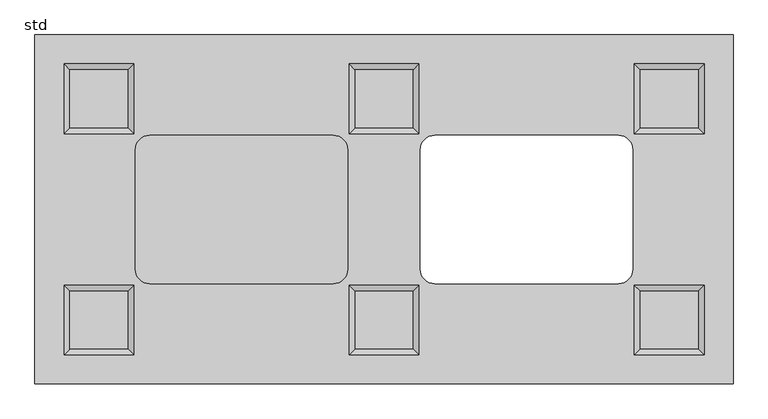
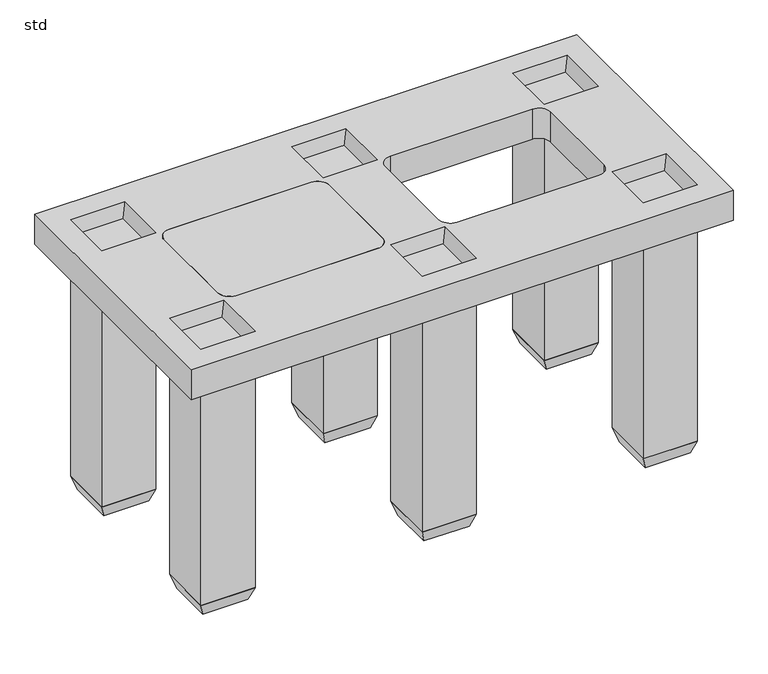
"""IFC4 building model written with IfcOpenShell, lengths in millimetres: unitary equipment geometry, Z_ME_UN_Q-Bic_Plus_Infiltration_Unit_Wavin_(nested) : std."""

from ifc_helpers import new_model, si_unit, point, frame, frame_2d, origin, origin_with_axes, place, context, project, spatial, polyline, circle_curve, trimmed, segment, composite_curve, outline, extrude, faceted_brep, source, transform, mapped, element, save
from ifc_brep_helpers import plane_surface, revolved_surface, advanced_brep


def std_7f29cd48(model_context):
    return source(origin(), model_context, "Body", "SolidModel", [
        extrude(outline(composite_curve([segment(polyline([(197.5, 427.5), (512.5, 427.5)]), True, "CONTINUOUS"), segment(trimmed(circle_curve(frame_2d((512.5, 402.5)), 25.0), [point((512.5, 427.5))], [point((537.5, 402.5))], False, "CARTESIAN"), True, "CONTINUOUS"), segment(polyline([(537.5, 402.5), (537.5, 197.5)]), True, "CONTINUOUS"), segment(trimmed(circle_curve(frame_2d((512.5, 197.5)), 25.0), [point((537.5, 197.5))], [point((512.5, 172.5))], False, "CARTESIAN"), True, "CONTINUOUS"), segment(polyline([(512.5, 172.5), (197.5, 172.5)]), True, "CONTINUOUS"), segment(trimmed(circle_curve(frame_2d((197.5, 197.5)), 25.0), [point((197.5, 172.5))], [point((172.5, 197.5))], False, "CARTESIAN"), True, "CONTINUOUS"), segment(polyline([(172.5, 197.5), (172.5, 402.5)]), True, "CONTINUOUS"), segment(trimmed(circle_curve(frame_2d((197.5, 402.5)), 25.0), [point((172.5, 402.5))], [point((197.5, 427.5))], False, "CARTESIAN"), True, "CONTINUOUS")], self_intersect=False)), frame((0.0, 0.0, 530.0), z_axis=(0.0, 0.0, 1.0), x_axis=(1.0, 0.0, 0.0)), (0.0, 0.0, 1.0), 70.0),
        advanced_brep(
        [(1200.0, 600.0, 600.0), (0.0, 600.0, 600.0), (0.0, 0.0, 600.0), (1200.0, 0.0, 600.0), (50.0, 550.0, 600.0), (170.0, 550.0, 600.0), (170.0, 430.0, 600.0), (50.0, 430.0, 600.0), (50.0, 170.0, 600.0), (170.0, 170.0, 600.0), (170.0, 50.0, 600.0), (50.0, 50.0, 600.0), (540.0, 170.0, 600.0), (660.0, 170.0, 600.0), (660.0, 50.0, 600.0), (540.0, 50.0, 600.0), (540.0, 550.0, 600.0), (660.0, 550.0, 600.0), (660.0, 430.0, 600.0), (540.0, 430.0, 600.0), (1030.0, 550.0, 600.0), (1150.0, 550.0, 600.0), (1150.0, 430.0, 600.0), (1030.0, 430.0, 600.0), (1030.0, 170.0, 600.0), (1150.0, 170.0, 600.0), (1150.0, 50.0, 600.0), (1030.0, 50.0, 600.0), (172.5, 402.5, 600.0), (197.5, 427.5, 600.0), (512.5, 427.5, 600.0), (537.5, 402.5, 600.0), (537.5, 197.5, 600.0), (512.5, 172.5, 600.0), (197.5, 172.5, 600.0), (172.5, 197.5, 600.0), (662.5, 402.5, 600.0), (687.5, 427.5, 600.0), (1002.5, 427.5, 600.0), (1027.5, 402.5, 600.0), (1027.5, 197.5, 600.0), (1002.5, 172.5, 600.0), (687.5, 172.5, 600.0), (662.5, 197.5, 600.0), (1200.0, 600.0, 530.0), (1200.0, 0.0, 530.0), (0.0, 0.0, 530.0), (0.0, 600.0, 530.0), (172.5, 402.5, 530.0), (172.5, 197.5, 530.0), (197.5, 172.5, 530.0), (512.5, 172.5, 530.0), (537.5, 197.5, 530.0), (537.5, 402.5, 530.0), (512.5, 427.5, 530.0), (197.5, 427.5, 530.0), (662.5, 402.5, 530.0), (662.5, 197.5, 530.0), (687.5, 172.5, 530.0), (1002.5, 172.5, 530.0), (1027.5, 197.5, 530.0), (1027.5, 402.5, 530.0), (1002.5, 427.5, 530.0), (687.5, 427.5, 530.0), (160.0, 540.0, 570.0), (60.0, 540.0, 570.0), (60.0, 440.0, 570.0), (160.0, 440.0, 570.0), (160.0, 160.0, 570.0), (60.0, 160.0, 570.0), (60.0, 60.0, 570.0), (160.0, 60.0, 570.0), (650.0, 540.0, 570.0), (550.0, 540.0, 570.0), (550.0, 440.0, 570.0), (650.0, 440.0, 570.0), (1140.0, 540.0, 570.0), (1040.0, 540.0, 570.0), (1040.0, 440.0, 570.0), (1140.0, 440.0, 570.0), (650.0, 160.0, 570.0), (550.0, 160.0, 570.0), (550.0, 60.0, 570.0), (650.0, 60.0, 570.0), (1140.0, 160.0, 570.0), (1040.0, 160.0, 570.0), (1040.0, 60.0, 570.0), (1140.0, 60.0, 570.0)],
        [
            (0, 1),
            (1, 2),
            (2, 3),
            (3, 0),
            (4, 5),
            (5, 6),
            (6, 7),
            (7, 4),
            (8, 9),
            (9, 10),
            (10, 11),
            (11, 8),
            (12, 13),
            (13, 14),
            (14, 15),
            (15, 12),
            (16, 17),
            (17, 18),
            (18, 19),
            (19, 16),
            (20, 21),
            (21, 22),
            (22, 23),
            (23, 20),
            (24, 25),
            (25, 26),
            (26, 27),
            (27, 24),
            (28, 29, circle_curve(frame((197.5, 402.5, 600.0), z_axis=(0.0, 0.0, -1.0), x_axis=(1.0, 0.0, 0.0)), 25.0)),
            (29, 30),
            (30, 31, circle_curve(frame((512.5, 402.5, 600.0), z_axis=(0.0, 0.0, -1.0), x_axis=(1.0, 0.0, 0.0)), 25.0)),
            (31, 32),
            (32, 33, circle_curve(frame((512.5, 197.5, 600.0), z_axis=(0.0, 0.0, -1.0), x_axis=(1.0, 0.0, 0.0)), 25.0)),
            (33, 34),
            (34, 35, circle_curve(frame((197.5, 197.5, 600.0), z_axis=(0.0, 0.0, -1.0), x_axis=(1.0, 0.0, 0.0)), 25.0)),
            (35, 28),
            (36, 37, circle_curve(frame((687.5, 402.5, 600.0), z_axis=(0.0, 0.0, -1.0), x_axis=(1.0, 0.0, 0.0)), 25.0)),
            (37, 38),
            (38, 39, circle_curve(frame((1002.5, 402.5, 600.0), z_axis=(0.0, 0.0, -1.0), x_axis=(1.0, 0.0, 0.0)), 25.0)),
            (39, 40),
            (40, 41, circle_curve(frame((1002.5, 197.5, 600.0), z_axis=(0.0, 0.0, -1.0), x_axis=(1.0, 0.0, 0.0)), 25.0)),
            (41, 42),
            (42, 43, circle_curve(frame((687.5, 197.5, 600.0), z_axis=(0.0, 0.0, -1.0), x_axis=(1.0, 0.0, 0.0)), 25.0)),
            (43, 36),
            (44, 45),
            (45, 46),
            (46, 47),
            (47, 44),
            (48, 49),
            (49, 50, circle_curve(frame((197.5, 197.5, 530.0), z_axis=(0.0, 0.0, 1.0), x_axis=(1.0, 0.0, 0.0)), 25.0)),
            (50, 51),
            (51, 52, circle_curve(frame((512.5, 197.5, 530.0), z_axis=(0.0, 0.0, 1.0), x_axis=(1.0, 0.0, 0.0)), 25.0)),
            (52, 53),
            (53, 54, circle_curve(frame((512.5, 402.5, 530.0), z_axis=(0.0, 0.0, 1.0), x_axis=(1.0, 0.0, 0.0)), 25.0)),
            (54, 55),
            (55, 48, circle_curve(frame((197.5, 402.5, 530.0), z_axis=(0.0, 0.0, 1.0), x_axis=(1.0, 0.0, 0.0)), 25.0)),
            (56, 57),
            (57, 58, circle_curve(frame((687.5, 197.5, 530.0), z_axis=(0.0, 0.0, 1.0), x_axis=(1.0, 0.0, 0.0)), 25.0)),
            (58, 59),
            (59, 60, circle_curve(frame((1002.5, 197.5, 530.0), z_axis=(0.0, 0.0, 1.0), x_axis=(1.0, 0.0, 0.0)), 25.0)),
            (60, 61),
            (61, 62, circle_curve(frame((1002.5, 402.5, 530.0), z_axis=(0.0, 0.0, 1.0), x_axis=(1.0, 0.0, 0.0)), 25.0)),
            (62, 63),
            (63, 56, circle_curve(frame((687.5, 402.5, 530.0), z_axis=(0.0, 0.0, 1.0), x_axis=(1.0, 0.0, 0.0)), 25.0)),
            (0, 44),
            (47, 1),
            (46, 2),
            (45, 3),
            (64, 65),
            (65, 66),
            (66, 67),
            (67, 64),
            (64, 5),
            (4, 65),
            (7, 66),
            (6, 67),
            (68, 69),
            (69, 70),
            (70, 71),
            (71, 68),
            (68, 9),
            (8, 69),
            (11, 70),
            (10, 71),
            (72, 73),
            (73, 74),
            (74, 75),
            (75, 72),
            (72, 17),
            (16, 73),
            (19, 74),
            (18, 75),
            (76, 77),
            (77, 78),
            (78, 79),
            (79, 76),
            (76, 21),
            (20, 77),
            (23, 78),
            (22, 79),
            (80, 81),
            (81, 82),
            (82, 83),
            (83, 80),
            (80, 13),
            (12, 81),
            (15, 82),
            (14, 83),
            (84, 85),
            (85, 86),
            (86, 87),
            (87, 84),
            (84, 25),
            (24, 85),
            (27, 86),
            (26, 87),
            (28, 48),
            (55, 29),
            (54, 30),
            (53, 31),
            (52, 32),
            (51, 33),
            (50, 34),
            (49, 35),
            (36, 56),
            (63, 37),
            (62, 38),
            (61, 39),
            (60, 40),
            (59, 41),
            (58, 42),
            (57, 43),
        ],
        [
            plane_surface(frame((0.0, 600.0, 600.0), z_axis=(0.0, 0.0, 1.0), x_axis=(-1.0, 0.0, 0.0))),
            plane_surface(frame((0.0, 600.0, 530.0), z_axis=(0.0, 0.0, -1.0), x_axis=(1.0, 0.0, 0.0))),
            plane_surface(frame((1200.0, 600.0, 600.0), z_axis=(0.0, 1.0, 0.0), x_axis=(0.0, 0.0, -1.0))),
            plane_surface(frame((0.0, 600.0, 600.0), z_axis=(-1.0, 0.0, 0.0), x_axis=(0.0, 0.0, -1.0))),
            plane_surface(frame((0.0, 0.0, 600.0), z_axis=(0.0, -1.0, 0.0), x_axis=(0.0, 0.0, -1.0))),
            plane_surface(frame((1200.0, 0.0, 600.0), z_axis=(1.0, 0.0, 0.0), x_axis=(0.0, 0.0, -1.0))),
            plane_surface(frame((110.0, 490.0, 570.0), z_axis=(0.0, 0.0, 1.0), x_axis=(-1.0, 0.0, 0.0))),
            plane_surface(frame((110.0, 550.0, 600.0), z_axis=(0.0, -0.9486832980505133, 0.3162277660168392), x_axis=(1.0, 0.0, 0.0))),
            plane_surface(frame((50.0, 490.0, 600.0), z_axis=(0.9486832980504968, 0.0, 0.3162277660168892), x_axis=(0.0, 1.0, 0.0))),
            plane_surface(frame((110.0, 430.0, 600.0), z_axis=(0.0, 0.9486832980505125, 0.31622776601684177), x_axis=(-1.0, 0.0, 0.0))),
            plane_surface(frame((170.0, 490.0, 600.0), z_axis=(-0.948683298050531, 0.0, 0.3162277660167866), x_axis=(0.0, -1.0, 0.0))),
            plane_surface(frame((110.0, 110.0, 570.0), z_axis=(0.0, 0.0, 1.0), x_axis=(-1.0, 0.0, 0.0))),
            plane_surface(frame((110.0, 170.0, 600.0), z_axis=(0.0, -0.9486832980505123, 0.31622776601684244), x_axis=(1.0, 0.0, 0.0))),
            plane_surface(frame((50.0, 110.0, 600.0), z_axis=(0.948683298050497, 0.0, 0.3162277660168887), x_axis=(0.0, 1.0, 0.0))),
            plane_surface(frame((110.0, 50.0, 600.0), z_axis=(0.0, 0.9486832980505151, 0.31622776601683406), x_axis=(-1.0, 0.0, 0.0))),
            plane_surface(frame((170.0, 110.0, 600.0), z_axis=(-0.9486832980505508, 0.0, 0.31622776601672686), x_axis=(0.0, -1.0, 0.0))),
            plane_surface(frame((600.0, 490.0, 570.0), z_axis=(0.0, 0.0, 1.0), x_axis=(-1.0, 0.0, 0.0))),
            plane_surface(frame((600.0, 550.0, 600.0), z_axis=(0.0, -0.9486832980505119, 0.3162277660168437), x_axis=(1.0, 0.0, 0.0))),
            plane_surface(frame((540.0, 490.0, 600.0), z_axis=(0.9486832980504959, 0.0, 0.3162277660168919), x_axis=(0.0, 1.0, 0.0))),
            plane_surface(frame((600.0, 430.0, 600.0), z_axis=(0.0, 0.948683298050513, 0.31622776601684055), x_axis=(-1.0, 0.0, 0.0))),
            plane_surface(frame((660.0, 490.0, 600.0), z_axis=(-0.9486832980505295, 0.0, 0.3162277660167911), x_axis=(0.0, -1.0, 0.0))),
            plane_surface(frame((1090.0, 490.0, 570.0), z_axis=(0.0, 0.0, 1.0), x_axis=(-1.0, 0.0, 0.0))),
            plane_surface(frame((1090.0, 550.0, 600.0), z_axis=(0.0, -0.9486832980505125, 0.3162277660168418), x_axis=(1.0, 0.0, 0.0))),
            plane_surface(frame((1030.0, 490.0, 600.0), z_axis=(0.9486832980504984, 0.0, 0.3162277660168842), x_axis=(0.0, 1.0, 0.0))),
            plane_surface(frame((1090.0, 430.0, 600.0), z_axis=(0.0, 0.9486832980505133, 0.3162277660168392), x_axis=(-1.0, 0.0, 0.0))),
            plane_surface(frame((1150.0, 490.0, 600.0), z_axis=(-0.9486832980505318, 0.0, 0.316227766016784), x_axis=(0.0, -1.0, 0.0))),
            plane_surface(frame((600.0, 110.0, 570.0), z_axis=(0.0, 0.0, 1.0), x_axis=(-1.0, 0.0, 0.0))),
            plane_surface(frame((600.0, 170.0, 600.0), z_axis=(0.0, -0.9486832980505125, 0.31622776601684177), x_axis=(1.0, 0.0, 0.0))),
            plane_surface(frame((540.0, 110.0, 600.0), z_axis=(0.9486832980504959, 0.0, 0.3162277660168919), x_axis=(0.0, 1.0, 0.0))),
            plane_surface(frame((600.0, 50.0, 600.0), z_axis=(0.0, 0.9486832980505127, 0.31622776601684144), x_axis=(-1.0, 0.0, 0.0))),
            plane_surface(frame((660.0, 110.0, 600.0), z_axis=(-0.9486832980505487, 0.0, 0.3162277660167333), x_axis=(0.0, -1.0, 0.0))),
            plane_surface(frame((1090.0, 110.0, 570.0), z_axis=(0.0, 0.0, 1.0), x_axis=(-1.0, 0.0, 0.0))),
            plane_surface(frame((1090.0, 170.0, 600.0), z_axis=(0.0, -0.948683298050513, 0.31622776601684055), x_axis=(1.0, 0.0, 0.0))),
            plane_surface(frame((1030.0, 110.0, 600.0), z_axis=(0.9486832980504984, 0.0, 0.3162277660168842), x_axis=(0.0, 1.0, 0.0))),
            plane_surface(frame((1090.0, 50.0, 600.0), z_axis=(0.0, 0.948683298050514, 0.31622776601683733), x_axis=(-1.0, 0.0, 0.0))),
            plane_surface(frame((1150.0, 110.0, 600.0), z_axis=(-0.9486832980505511, 0.0, 0.31622776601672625), x_axis=(0.0, -1.0, 0.0))),
            revolved_surface(polyline([(222.5, 402.5, 530.0), (222.5, 402.5, 600.0)]), (197.5, 402.5, 0.0), (0.0, 0.0, -1.0)),
            plane_surface(frame((197.5, 427.5, 600.0), z_axis=(0.0, -1.0, 0.0), x_axis=(0.0, 0.0, -1.0))),
            revolved_surface(polyline([(537.5, 402.5, 530.0), (537.5, 402.5, 600.0)]), (512.5, 402.5, 0.0), (0.0, 0.0, -1.0)),
            plane_surface(frame((537.5, 402.5, 600.0), z_axis=(-1.0, 0.0, 0.0), x_axis=(0.0, 0.0, -1.0))),
            revolved_surface(polyline([(537.5, 197.5, 530.0), (537.5, 197.5, 600.0)]), (512.5, 197.5, 0.0), (0.0, 0.0, -1.0)),
            plane_surface(frame((512.5, 172.5, 600.0), z_axis=(0.0, 1.0, 0.0), x_axis=(0.0, 0.0, -1.0))),
            revolved_surface(polyline([(222.5, 197.5, 530.0), (222.5, 197.5, 600.0)]), (197.5, 197.5, 0.0), (0.0, 0.0, -1.0)),
            plane_surface(frame((172.5, 197.5, 600.0), z_axis=(1.0, 0.0, 0.0), x_axis=(0.0, 0.0, -1.0))),
            revolved_surface(polyline([(712.5, 402.5, 530.0), (712.5, 402.5, 600.0)]), (687.5, 402.5, 0.0), (0.0, 0.0, -1.0)),
            plane_surface(frame((687.5, 427.5, 600.0), z_axis=(0.0, -1.0, 0.0), x_axis=(0.0, 0.0, -1.0))),
            revolved_surface(polyline([(1027.5, 402.5, 530.0), (1027.5, 402.5, 600.0)]), (1002.5, 402.5, 0.0), (0.0, 0.0, -1.0)),
            plane_surface(frame((1027.5, 402.5, 600.0), z_axis=(-1.0, 0.0, 0.0), x_axis=(0.0, 0.0, -1.0))),
            revolved_surface(polyline([(1027.5, 197.5, 530.0), (1027.5, 197.5, 600.0)]), (1002.5, 197.5, 0.0), (0.0, 0.0, -1.0)),
            plane_surface(frame((1002.5, 172.5, 600.0), z_axis=(0.0, 1.0, 0.0), x_axis=(0.0, 0.0, -1.0))),
            revolved_surface(polyline([(712.5, 197.5, 530.0), (712.5, 197.5, 600.0)]), (687.5, 197.5, 0.0), (0.0, 0.0, -1.0)),
            plane_surface(frame((662.5, 197.5, 600.0), z_axis=(1.0, 0.0, 0.0), x_axis=(0.0, 0.0, -1.0))),
        ],
        [
            (0, [[1, 2, 3, 4], [5, 6, 7, 8], [9, 10, 11, 12], [13, 14, 15, 16], [17, 18, 19, 20], [21, 22, 23, 24], [25, 26, 27, 28], [29, 30, 31, 32, 33, 34, 35, 36], [37, 38, 39, 40, 41, 42, 43, 44]]),
            (1, [[45, 46, 47, 48], [49, 50, 51, 52, 53, 54, 55, 56], [57, 58, 59, 60, 61, 62, 63, 64]]),
            (2, [[-1, 65, -48, 66]]),
            (3, [[-2, -66, -47, 67]]),
            (4, [[-3, -67, -46, 68]]),
            (5, [[-4, -68, -45, -65]]),
            (6, [[69, 70, 71, 72]]),
            (7, [[-69, 73, -5, 74]]),
            (8, [[-70, -74, -8, 75]]),
            (9, [[-71, -75, -7, 76]]),
            (10, [[-72, -76, -6, -73]]),
            (11, [[77, 78, 79, 80]]),
            (12, [[-77, 81, -9, 82]]),
            (13, [[-78, -82, -12, 83]]),
            (14, [[-79, -83, -11, 84]]),
            (15, [[-80, -84, -10, -81]]),
            (16, [[85, 86, 87, 88]]),
            (17, [[-85, 89, -17, 90]]),
            (18, [[-86, -90, -20, 91]]),
            (19, [[-87, -91, -19, 92]]),
            (20, [[-88, -92, -18, -89]]),
            (21, [[93, 94, 95, 96]]),
            (22, [[-93, 97, -21, 98]]),
            (23, [[-94, -98, -24, 99]]),
            (24, [[-95, -99, -23, 100]]),
            (25, [[-96, -100, -22, -97]]),
            (26, [[101, 102, 103, 104]]),
            (27, [[-101, 105, -13, 106]]),
            (28, [[-102, -106, -16, 107]]),
            (29, [[-103, -107, -15, 108]]),
            (30, [[-104, -108, -14, -105]]),
            (31, [[109, 110, 111, 112]]),
            (32, [[-109, 113, -25, 114]]),
            (33, [[-110, -114, -28, 115]]),
            (34, [[-111, -115, -27, 116]]),
            (35, [[-112, -116, -26, -113]]),
            (36, [[-29, 117, -56, 118]]),
            (37, [[-30, -118, -55, 119]]),
            (38, [[-31, -119, -54, 120]]),
            (39, [[-32, -120, -53, 121]]),
            (40, [[-33, -121, -52, 122]]),
            (41, [[-34, -122, -51, 123]]),
            (42, [[-35, -123, -50, 124]]),
            (43, [[-36, -124, -49, -117]]),
            (44, [[-37, 125, -64, 126]]),
            (45, [[-38, -126, -63, 127]]),
            (46, [[-39, -127, -62, 128]]),
            (47, [[-40, -128, -61, 129]]),
            (48, [[-41, -129, -60, 130]]),
            (49, [[-42, -130, -59, 131]]),
            (50, [[-43, -131, -58, 132]]),
            (51, [[-44, -132, -57, -125]]),
        ],
    ),
        faceted_brep([(1140.0, 160.0, -30.0), (1140.0, 60.0, -30.0), (1040.0, 60.0, -30.0), (1040.0, 160.0, -30.0), (1150.0, 170.0, 0.0), (1030.0, 170.0, 0.0), (1030.0, 50.0, 0.0), (1150.0, 50.0, 0.0)], [[[0, 1, 2, 3]], [[4, 5, 6, 7]], [[5, 4, 0, 3]], [[6, 5, 3, 2]], [[7, 6, 2, 1]], [[4, 7, 1, 0]]]),
        faceted_brep([(650.0, 160.0, -30.0), (650.0, 60.0, -30.0), (550.0, 60.0, -30.0), (550.0, 160.0, -30.0), (660.0, 170.0, 0.0), (540.0, 170.0, 0.0), (540.0, 50.0, 0.0), (660.0, 50.0, 0.0)], [[[0, 1, 2, 3]], [[4, 5, 6, 7]], [[5, 4, 0, 3]], [[6, 5, 3, 2]], [[7, 6, 2, 1]], [[4, 7, 1, 0]]]),
        faceted_brep([(160.0, 160.0, -30.0), (160.0, 60.0, -30.0), (60.0, 60.0, -30.0), (60.0, 160.0, -30.0), (170.0, 170.0, 0.0), (50.0, 170.0, 0.0), (50.0, 50.0, 0.0), (170.0, 50.0, 0.0)], [[[0, 1, 2, 3]], [[4, 5, 6, 7]], [[5, 4, 0, 3]], [[6, 5, 3, 2]], [[7, 6, 2, 1]], [[4, 7, 1, 0]]]),
        faceted_brep([(1140.0, 540.0, -30.0), (1140.0, 440.0, -30.0), (1040.0, 440.0, -30.0), (1040.0, 540.0, -30.0), (1150.0, 550.0, 0.0), (1030.0, 550.0, 0.0), (1030.0, 430.0, 0.0), (1150.0, 430.0, 0.0)], [[[0, 1, 2, 3]], [[4, 5, 6, 7]], [[5, 4, 0, 3]], [[6, 5, 3, 2]], [[7, 6, 2, 1]], [[4, 7, 1, 0]]]),
        faceted_brep([(650.0, 540.0, -30.0), (650.0, 440.0, -30.0), (550.0, 440.0, -30.0), (550.0, 540.0, -30.0), (660.0, 550.0, 0.0), (540.0, 550.0, 0.0), (540.0, 430.0, 0.0), (660.0, 430.0, 0.0)], [[[0, 1, 2, 3]], [[4, 5, 6, 7]], [[5, 4, 0, 3]], [[6, 5, 3, 2]], [[7, 6, 2, 1]], [[4, 7, 1, 0]]]),
        faceted_brep([(160.0, 540.0, -30.0), (160.0, 440.0, -30.0), (60.0, 440.0, -30.0), (60.0, 540.0, -30.0), (170.0, 550.0, 0.0), (50.0, 550.0, 0.0), (50.0, 430.0, 0.0), (170.0, 430.0, 0.0)], [[[0, 1, 2, 3]], [[4, 5, 6, 7]], [[5, 4, 0, 3]], [[6, 5, 3, 2]], [[7, 6, 2, 1]], [[4, 7, 1, 0]]]),
        extrude(outline(polyline([(170.0, 550.0), (170.0, 430.0), (50.0, 430.0), (50.0, 550.0), (170.0, 550.0)])), origin_with_axes(), (0.0, 0.0, 1.0), 530.0),
        extrude(outline(polyline([(170.0, 170.0), (170.0, 50.0), (50.0, 50.0), (50.0, 170.0), (170.0, 170.0)])), origin_with_axes(), (0.0, 0.0, 1.0), 530.0),
        extrude(outline(polyline([(660.0, 550.0), (660.0, 430.0), (540.0, 430.0), (540.0, 550.0), (660.0, 550.0)])), origin_with_axes(), (0.0, 0.0, 1.0), 530.0),
        extrude(outline(polyline([(660.0, 170.0), (660.0, 50.0), (540.0, 50.0), (540.0, 170.0), (660.0, 170.0)])), origin_with_axes(), (0.0, 0.0, 1.0), 530.0),
        extrude(outline(polyline([(1150.0, 550.0), (1150.0, 430.0), (1030.0, 430.0), (1030.0, 550.0), (1150.0, 550.0)])), origin_with_axes(), (0.0, 0.0, 1.0), 530.0),
        extrude(outline(polyline([(1150.0, 170.0), (1150.0, 50.0), (1030.0, 50.0), (1030.0, 170.0), (1150.0, 170.0)])), origin_with_axes(), (0.0, 0.0, 1.0), 530.0),
    ])


if __name__ == "__main__":
    model = new_model("IFC4")
    model_context = context("Model", 3, world=origin())
    ifc_project = project(units=[si_unit("LENGTHUNIT", "METRE", prefix="MILLI")], contexts=[model_context])
    site = spatial("IfcSite", under=ifc_project)
    building = spatial("IfcBuilding", under=site)
    placement = place(None, origin())
    std_shape = std_7f29cd48(model_context)
    element("IfcUnitaryEquipment", 1, ObjectType="Z_ME_UN_Q-Bic_Plus_Infiltration_Unit_Wavin_(nested) : std", at=placement, inside=building, context=model_context, shape_type="MappedRepresentation", body=[
        mapped(std_shape, transform((0.0, 0.0, 0.0), x_axis=(1.0, 0.0, 0.0), y_axis=(0.0, 1.0, 0.0), z_axis=(0.0, 0.0, 1.0))),
    ])
    save(model, "model.ifc")
